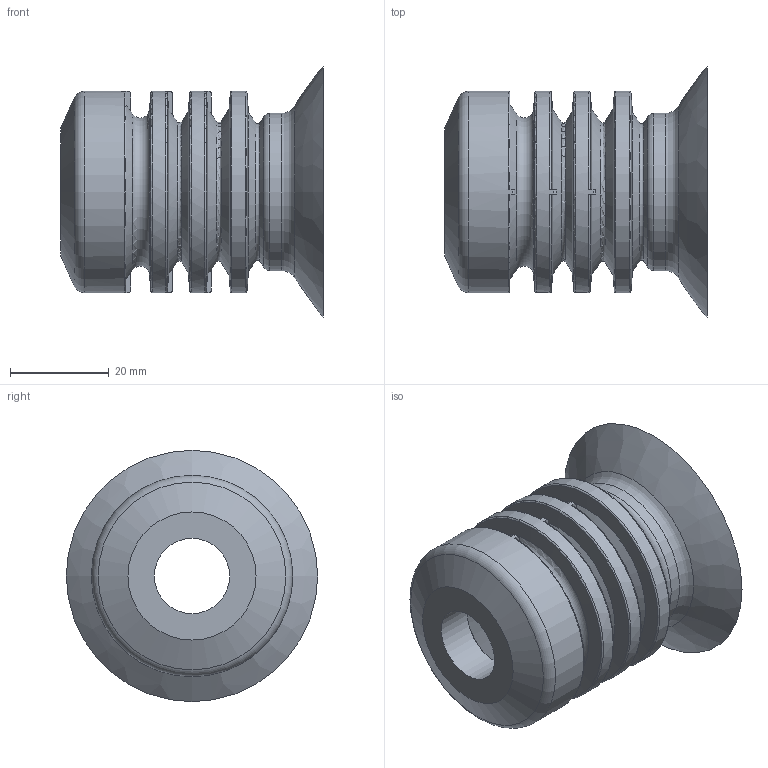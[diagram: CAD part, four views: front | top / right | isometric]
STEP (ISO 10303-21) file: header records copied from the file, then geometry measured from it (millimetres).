
FILE_DESCRIPTION (( 'STEP AP214' ), '1' );
FILE_NAME ('PMB50-5.STEP', '2025-12-11T12:53:47', ( '' ), ( '' ), 'SwSTEP 2.0', 'SolidWorks 2025', '' );
FILE_SCHEMA (( 'AUTOMOTIVE_DESIGN' ));
Length unit declared in the file: millimetre
Products named in the file (1): PMB50-5
Bounding box: 53 x 50.83 x 50.83 mm (x, y, z)
Volume: 25844.1 mm3; surface area: 18715.9 mm2
Topology: 1 solids, 1 shells, 208 faces, 530 edges, 325 vertices
Faces by surface type: torus 81, plane 53, cylinder 48, cone 24, bspline 2
Full cylindrical faces by diameter (mm): 15.2 x1, 19.6 x1, 19.7 x1, 31.8 x1, 40.7 x4
Entity records: 6921 total; most frequent: CARTESIAN_POINT 2221, DIRECTION 1014, ORIENTED_EDGE 932, EDGE_CURVE 466, AXIS2_PLACEMENT_3D 463, VERTEX_POINT 310, EDGE_LOOP 260, CIRCLE 256
